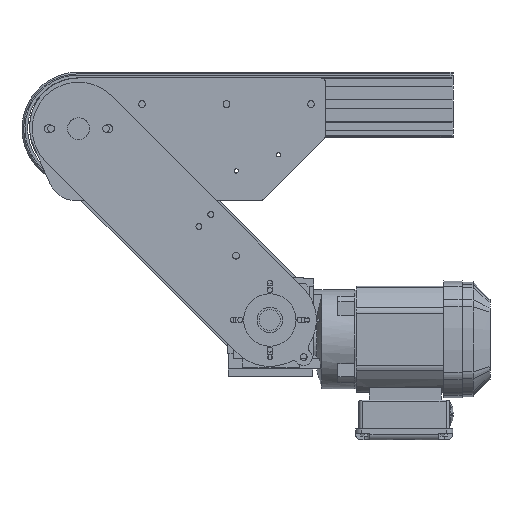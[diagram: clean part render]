
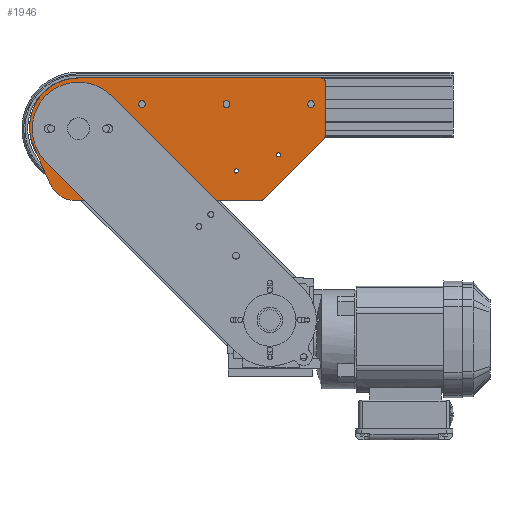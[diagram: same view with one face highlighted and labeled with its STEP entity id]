
A CAD part, front view. The second image highlights one B-rep face of the part: STEP entity #1946.
In plain terms, the highlighted planar face has unit normal (0, -1, 0) as drawn and (0, 1, 0) by its records, which use the part's own axes.
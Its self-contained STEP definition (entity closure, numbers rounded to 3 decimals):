
#1142=CARTESIAN_POINT('',(-54.,38.,-67.));
#1143=VERTEX_POINT('',#1142);
#1144=CARTESIAN_POINT('',(-67.,38.,-67.));
#1145=DIRECTION('',(0.0,-1.0,0.0));
#1146=DIRECTION('',(-1.0,0.0,0.0));
#1147=AXIS2_PLACEMENT_3D('',#1144,#1145,#1146);
#1148=CIRCLE('',#1147,13.0);
#1149=EDGE_CURVE('',#1143,#1143,#1148,.T.);
#1170=CARTESIAN_POINT('',(-95.5,38.,-67.));
#1171=VERTEX_POINT('',#1170);
#1172=CARTESIAN_POINT('',(-99.5,38.,-67.));
#1173=DIRECTION('',(0.0,-1.0,0.0));
#1174=DIRECTION('',(-1.0,0.0,0.0));
#1175=AXIS2_PLACEMENT_3D('',#1172,#1173,#1174);
#1176=CIRCLE('',#1175,4.0);
#1177=EDGE_CURVE('',#1171,#1171,#1176,.T.);
#1198=CARTESIAN_POINT('',(-30.5,38.,-67.));
#1199=VERTEX_POINT('',#1198);
#1200=CARTESIAN_POINT('',(-34.5,38.,-67.));
#1201=DIRECTION('',(0.0,-1.0,0.0));
#1202=DIRECTION('',(-1.0,0.0,0.0));
#1203=AXIS2_PLACEMENT_3D('',#1200,#1201,#1202);
#1204=CIRCLE('',#1203,4.0);
#1205=EDGE_CURVE('',#1199,#1199,#1204,.T.);
#1226=CARTESIAN_POINT('',(-338.,38.,-38.));
#1227=VERTEX_POINT('',#1226);
#1228=CARTESIAN_POINT('',(-342.,38.,-38.));
#1229=DIRECTION('',(0.0,-1.0,0.0));
#1230=DIRECTION('',(-1.0,0.0,0.0));
#1231=AXIS2_PLACEMENT_3D('',#1228,#1229,#1230);
#1232=CIRCLE('',#1231,4.0);
#1233=EDGE_CURVE('',#1227,#1227,#1232,.T.);
#1254=CARTESIAN_POINT('',(-238.,38.,-38.));
#1255=VERTEX_POINT('',#1254);
#1256=CARTESIAN_POINT('',(-242.,38.,-38.));
#1257=DIRECTION('',(0.0,-1.0,0.0));
#1258=DIRECTION('',(-1.0,0.0,0.0));
#1259=AXIS2_PLACEMENT_3D('',#1256,#1257,#1258);
#1260=CIRCLE('',#1259,4.0);
#1261=EDGE_CURVE('',#1255,#1255,#1260,.T.);
#1282=CARTESIAN_POINT('',(-138.,38.,-38.));
#1283=VERTEX_POINT('',#1282);
#1284=CARTESIAN_POINT('',(-142.,38.,-38.));
#1285=DIRECTION('',(0.0,-1.0,0.0));
#1286=DIRECTION('',(-1.0,0.0,0.0));
#1287=AXIS2_PLACEMENT_3D('',#1284,#1285,#1286);
#1288=CIRCLE('',#1287,4.0);
#1289=EDGE_CURVE('',#1283,#1283,#1288,.T.);
#1310=CARTESIAN_POINT('',(-251.,38.,-117.));
#1311=VERTEX_POINT('',#1310);
#1312=CARTESIAN_POINT('',(-253.5,38.,-117.));
#1313=DIRECTION('',(0.0,-1.0,0.0));
#1314=DIRECTION('',(-1.0,0.0,0.0));
#1315=AXIS2_PLACEMENT_3D('',#1312,#1313,#1314);
#1316=CIRCLE('',#1315,2.5);
#1317=EDGE_CURVE('',#1311,#1311,#1316,.T.);
#1338=CARTESIAN_POINT('',(-301.,38.,-98.));
#1339=VERTEX_POINT('',#1338);
#1340=CARTESIAN_POINT('',(-303.5,38.,-98.));
#1341=DIRECTION('',(0.0,-1.0,0.0));
#1342=DIRECTION('',(-1.0,0.0,0.0));
#1343=AXIS2_PLACEMENT_3D('',#1340,#1341,#1342);
#1344=CIRCLE('',#1343,2.5);
#1345=EDGE_CURVE('',#1339,#1339,#1344,.T.);
#1503=CARTESIAN_POINT('',(-359.,38.,-12.));
#1504=VERTEX_POINT('',#1503);
#1511=CARTESIAN_POINT('',(-359.,38.,-74.79));
#1512=VERTEX_POINT('',#1511);
#1513=CARTESIAN_POINT('',(-359.,38.,-12.));
#1514=DIRECTION('',(0.0,0.0,-1.0));
#1515=VECTOR('',#1514,62.79);
#1516=LINE('',#1513,#1515);
#1517=EDGE_CURVE('',#1504,#1512,#1516,.T.);
#1565=CARTESIAN_POINT('',(-354.,38.,-7.));
#1566=VERTEX_POINT('',#1565);
#1567=CARTESIAN_POINT('',(-354.,38.,-12.));
#1568=DIRECTION('',(0.0,-1.0,0.0));
#1569=DIRECTION('',(-1.0,0.0,0.0));
#1570=AXIS2_PLACEMENT_3D('',#1567,#1568,#1569);
#1571=CIRCLE('',#1570,5.0);
#1572=EDGE_CURVE('',#1566,#1504,#1571,.T.);
#1597=CARTESIAN_POINT('',(-357.541,38.,-78.32));
#1598=VERTEX_POINT('',#1597);
#1599=CARTESIAN_POINT('',(-354.,38.,-74.79));
#1600=DIRECTION('',(0.0,-1.0,0.0));
#1601=DIRECTION('',(-1.0,0.0,0.0));
#1602=AXIS2_PLACEMENT_3D('',#1599,#1600,#1601);
#1603=CIRCLE('',#1602,5.0);
#1604=EDGE_CURVE('',#1512,#1598,#1603,.T.);
#1630=CARTESIAN_POINT('',(-285.557,38.,-150.53));
#1631=VERTEX_POINT('',#1630);
#1632=CARTESIAN_POINT('',(-357.541,38.,-78.32));
#1633=DIRECTION('',(0.706,0.,-0.708));
#1634=VECTOR('',#1633,101.961);
#1635=LINE('',#1632,#1634);
#1636=EDGE_CURVE('',#1598,#1631,#1635,.T.);
#1661=CARTESIAN_POINT('',(-282.016,38.,-152.));
#1662=VERTEX_POINT('',#1661);
#1663=CARTESIAN_POINT('',(-282.016,38.,-147.));
#1664=DIRECTION('',(0.0,-1.0,0.0));
#1665=DIRECTION('',(-1.0,0.0,0.0));
#1666=AXIS2_PLACEMENT_3D('',#1663,#1664,#1665);
#1667=CIRCLE('',#1666,5.0);
#1668=EDGE_CURVE('',#1631,#1662,#1667,.T.);
#1694=CARTESIAN_POINT('',(-63.3,38.,-152.));
#1695=VERTEX_POINT('',#1694);
#1696=CARTESIAN_POINT('',(-282.016,38.,-152.));
#1697=DIRECTION('',(1.0,0.0,0.0));
#1698=VECTOR('',#1697,218.716);
#1699=LINE('',#1696,#1698);
#1700=EDGE_CURVE('',#1662,#1695,#1699,.T.);
#1725=CARTESIAN_POINT('',(-33.597,38.,-132.69));
#1726=VERTEX_POINT('',#1725);
#1727=CARTESIAN_POINT('',(-63.3,38.,-119.5));
#1728=DIRECTION('',(0.0,-1.0,0.0));
#1729=DIRECTION('',(-1.0,0.0,0.0));
#1730=AXIS2_PLACEMENT_3D('',#1727,#1728,#1729);
#1731=CIRCLE('',#1730,32.5);
#1732=EDGE_CURVE('',#1695,#1726,#1731,.T.);
#1758=CARTESIAN_POINT('',(-13.991,38.,-88.539));
#1759=VERTEX_POINT('',#1758);
#1760=CARTESIAN_POINT('',(-33.597,38.,-132.69));
#1761=DIRECTION('',(0.406,0.,0.914));
#1762=VECTOR('',#1761,48.308);
#1763=LINE('',#1760,#1762);
#1764=EDGE_CURVE('',#1726,#1759,#1763,.T.);
#1798=CARTESIAN_POINT('',(-67.,38.,-7.));
#1799=VERTEX_POINT('',#1798);
#1800=CARTESIAN_POINT('',(-67.,38.,-65.));
#1801=DIRECTION('',(0.0,-1.0,0.0));
#1802=DIRECTION('',(-1.0,0.0,0.0));
#1803=AXIS2_PLACEMENT_3D('',#1800,#1801,#1802);
#1804=CIRCLE('',#1803,58.);
#1805=EDGE_CURVE('',#1759,#1799,#1804,.T.);
#1824=CARTESIAN_POINT('',(-67.,38.,-7.));
#1825=DIRECTION('',(-1.0,0.0,0.0));
#1826=VECTOR('',#1825,287.0);
#1827=LINE('',#1824,#1826);
#1828=EDGE_CURVE('',#1799,#1566,#1827,.T.);
#1905=CARTESIAN_POINT('',(-185.841,38.,-74.291));
#1906=DIRECTION('',(0.0,1.0,0.0));
#1907=DIRECTION('',(-1.0,0.0,0.0));
#1908=AXIS2_PLACEMENT_3D('',#1905,#1906,#1907);
#1909=PLANE('',#1908);
#1910=ORIENTED_EDGE('',*,*,#1572,.F.);
#1911=ORIENTED_EDGE('',*,*,#1828,.F.);
#1912=ORIENTED_EDGE('',*,*,#1805,.F.);
#1913=ORIENTED_EDGE('',*,*,#1764,.F.);
#1914=ORIENTED_EDGE('',*,*,#1732,.F.);
#1915=ORIENTED_EDGE('',*,*,#1700,.F.);
#1916=ORIENTED_EDGE('',*,*,#1668,.F.);
#1917=ORIENTED_EDGE('',*,*,#1636,.F.);
#1918=ORIENTED_EDGE('',*,*,#1604,.F.);
#1919=ORIENTED_EDGE('',*,*,#1517,.F.);
#1920=EDGE_LOOP('',(#1910,#1911,#1912,#1913,#1914,#1915,#1916,#1917,#1918,#1919));
#1921=FACE_OUTER_BOUND('',#1920,.T.);
#1922=ORIENTED_EDGE('',*,*,#1345,.T.);
#1923=EDGE_LOOP('',(#1922));
#1924=FACE_BOUND('',#1923,.T.);
#1925=ORIENTED_EDGE('',*,*,#1317,.T.);
#1926=EDGE_LOOP('',(#1925));
#1927=FACE_BOUND('',#1926,.T.);
#1928=ORIENTED_EDGE('',*,*,#1289,.T.);
#1929=EDGE_LOOP('',(#1928));
#1930=FACE_BOUND('',#1929,.T.);
#1931=ORIENTED_EDGE('',*,*,#1261,.T.);
#1932=EDGE_LOOP('',(#1931));
#1933=FACE_BOUND('',#1932,.T.);
#1934=ORIENTED_EDGE('',*,*,#1233,.T.);
#1935=EDGE_LOOP('',(#1934));
#1936=FACE_BOUND('',#1935,.T.);
#1937=ORIENTED_EDGE('',*,*,#1205,.T.);
#1938=EDGE_LOOP('',(#1937));
#1939=FACE_BOUND('',#1938,.T.);
#1940=ORIENTED_EDGE('',*,*,#1177,.T.);
#1941=EDGE_LOOP('',(#1940));
#1942=FACE_BOUND('',#1941,.T.);
#1943=ORIENTED_EDGE('',*,*,#1149,.T.);
#1944=EDGE_LOOP('',(#1943));
#1945=FACE_BOUND('',#1944,.T.);
#1946=ADVANCED_FACE('',(#1921,#1924,#1927,#1930,#1933,#1936,#1939,#1942,#1945),#1909,.T.);
